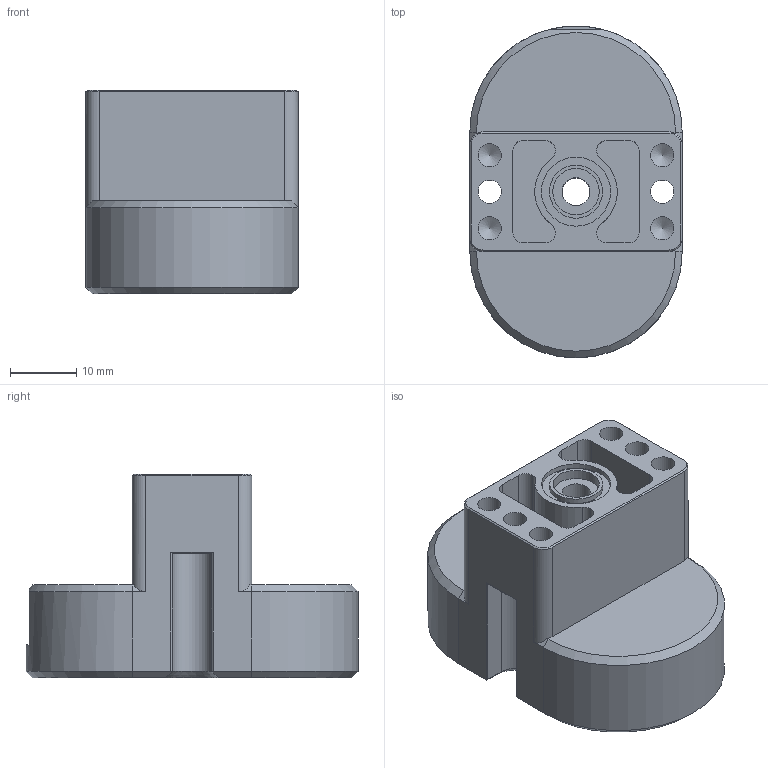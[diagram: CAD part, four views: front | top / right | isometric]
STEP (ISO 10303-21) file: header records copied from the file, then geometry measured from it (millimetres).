
FILE_DESCRIPTION(('STEP AP203'),'1');
FILE_NAME('SGE-M5I-B.stp','2023-12-20T05:56:54',(' '),(' '),'Spatial InterOp 3D',' ',' ');
FILE_SCHEMA(('CONFIG_CONTROL_DESIGN'));
Length unit declared in the file: millimetre
Products named in the file (1): 1
Bounding box: 32 x 50 x 30.7 mm (x, y, z)
Volume: 23711.6 mm3; surface area: 9363.6 mm2
Topology: 1 solids, 1 shells, 110 faces, 288 edges, 181 vertices
Faces by surface type: plane 55, cylinder 37, cone 18
Full cylindrical faces by diameter (mm): 3.5 x6, 4.2 x6, 7 x1, 8 x1, 10.4 x1
Entity records: 3225 total; most frequent: DIRECTION 565, CARTESIAN_POINT 549, ORIENTED_EDGE 502, EDGE_CURVE 251, AXIS2_PLACEMENT_3D 206, VERTEX_POINT 174, LINE 153, VECTOR 153
